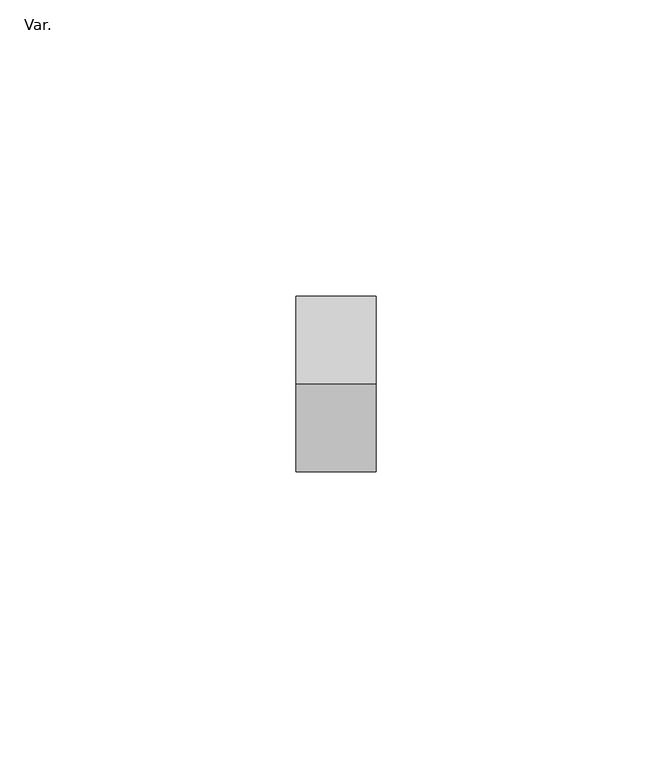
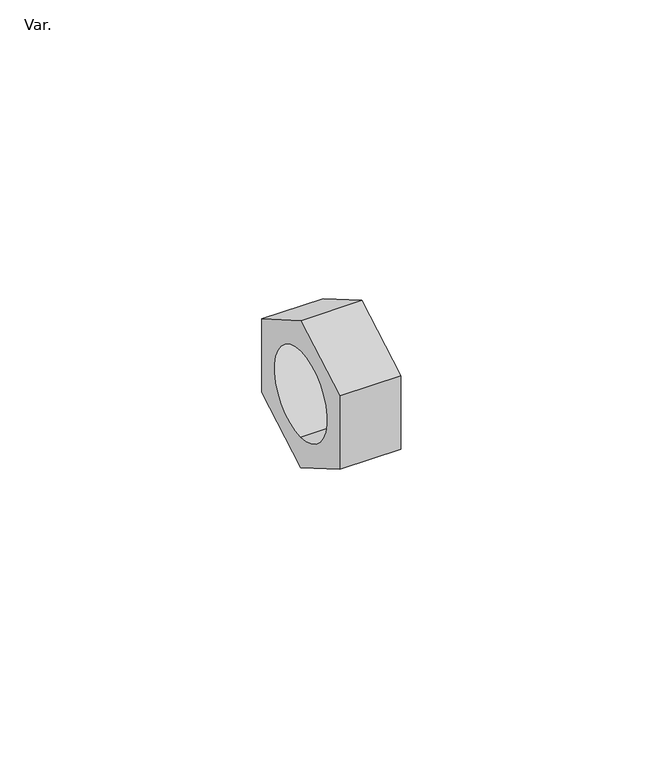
"""IFC4 building model written with IfcOpenShell, lengths in millimetres: pipe fitting geometry, Wavin_Tappevann_Brass_Manifold TF Cap : Var.."""

from ifc_helpers import new_model, si_unit, frame, origin, place, context, project, spatial, polyline, circle_curve, source, transform, mapped, element, save
from ifc_brep_helpers import plane_surface, revolved_surface, advanced_brep


def var_229d13c0(model_context):
    return source(origin(), model_context, "Body", "AdvancedBrep", [
        advanced_brep(
        [(1.5, 14.8090344, -8.55), (1.5, 14.8090344, 8.55), (1.5, 0.0, 17.1), (1.5, -14.8090344, 8.55), (1.5, -14.8090344, -8.55), (1.5, 0.0, -17.1), (-12.0, 14.8090344, -8.55), (-12.0, 0.0, -17.1), (-12.0, -14.8090344, -8.55), (-12.0, -14.8090344, 8.55), (-12.0, 0.0, 17.1), (-12.0, 14.8090344, 8.55), (-12.0, 0.0, 10.0), (-12.0, 0.0, -10.0), (0.0, 0.0, 10.0), (0.0, 0.0, -10.0)],
        [
            (0, 1),
            (1, 2),
            (2, 3),
            (3, 4),
            (4, 5),
            (5, 0),
            (6, 7),
            (7, 8),
            (8, 9),
            (9, 10),
            (10, 11),
            (11, 6),
            (12, 13, circle_curve(frame((-12.0, 0.0, 0.0), z_axis=(1.0, 0.0, 0.0), x_axis=(0.0, 0.0, -1.0)), 10.0)),
            (13, 12, circle_curve(frame((-12.0, 0.0, 0.0), z_axis=(1.0, 0.0, 0.0), x_axis=(0.0, 0.0, -1.0)), 10.0)),
            (0, 6),
            (11, 1),
            (10, 2),
            (9, 3),
            (8, 4),
            (7, 5),
            (14, 15, circle_curve(frame((0.0, 0.0, 0.0), z_axis=(-1.0, 0.0, 0.0), x_axis=(0.0, 0.0, -1.0)), 10.0)),
            (15, 14, circle_curve(frame((0.0, 0.0, 0.0), z_axis=(-1.0, 0.0, 0.0), x_axis=(0.0, 0.0, -1.0)), 10.0)),
            (15, 13),
            (12, 14),
        ],
        [
            plane_surface(frame((1.5, 14.8090344, 8.55), z_axis=(1.0, 0.0, 0.0), x_axis=(0.0, 0.0, 1.0))),
            plane_surface(frame((-12.0, 14.8090344, 8.55), z_axis=(-1.0, 0.0, 0.0), x_axis=(0.0, 0.0, -1.0))),
            plane_surface(frame((1.5, 14.8090344, -8.55), z_axis=(0.0, 1.0, 0.0), x_axis=(-1.0, 0.0, 0.0))),
            plane_surface(frame((1.5, 14.8090344, 8.55), z_axis=(0.0, 0.5000000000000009, 0.8660254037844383), x_axis=(-1.0, 0.0, 0.0))),
            plane_surface(frame((1.5, 0.0, 17.1), z_axis=(0.0, -0.5000000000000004, 0.8660254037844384), x_axis=(-1.0, 0.0, 0.0))),
            plane_surface(frame((1.5, -14.8090344, 8.55), z_axis=(0.0, -1.0, 0.0), x_axis=(-1.0, 0.0, 0.0))),
            plane_surface(frame((1.5, -14.8090344, -8.55), z_axis=(0.0, -0.4999999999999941, -0.866025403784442), x_axis=(-1.0, 0.0, 0.0))),
            plane_surface(frame((1.5, 0.0, -17.1), z_axis=(0.0, 0.4999999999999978, -0.8660254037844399), x_axis=(-1.0, 0.0, 0.0))),
            plane_surface(frame((0.0, 0.0, -10.0), z_axis=(-1.0, 0.0, 0.0), x_axis=(0.0, 1.0, 0.0))),
            revolved_surface(polyline([(0.0, 0.0, -10.0), (-12.0, 0.0, -10.0)]), (-12.0, 0.0, 0.0), (1.0, 0.0, 0.0)),
        ],
        [
            (0, [[1, 2, 3, 4, 5, 6]]),
            (1, [[7, 8, 9, 10, 11, 12], [13, 14]]),
            (2, [[-1, 15, -12, 16]]),
            (3, [[-2, -16, -11, 17]]),
            (4, [[-3, -17, -10, 18]]),
            (5, [[-4, -18, -9, 19]]),
            (6, [[-5, -19, -8, 20]]),
            (7, [[-6, -20, -7, -15]]),
            (8, [[21, 22]]),
            (9, [[-22, 23, -13, 24]]),
            (9, [[-21, -24, -14, -23]]),
        ],
    ),
    ])


if __name__ == "__main__":
    model = new_model("IFC4")
    model_context = context("Model", 3, world=origin())
    ifc_project = project(units=[si_unit("LENGTHUNIT", "METRE", prefix="MILLI")], contexts=[model_context])
    site = spatial("IfcSite", under=ifc_project)
    building = spatial("IfcBuilding", under=site)
    placement = place(None, origin())
    var_shape = var_229d13c0(model_context)
    element("IfcPipeFitting", 1, ObjectType="Wavin_Tappevann_Brass_Manifold TF Cap : Var.", at=placement, inside=building, context=model_context, shape_type="MappedRepresentation", body=[
        mapped(var_shape, transform((0.0, 0.0, 0.0), x_axis=(1.0, 0.0, 0.0), y_axis=(0.0, 1.0, 0.0), z_axis=(0.0, 0.0, 1.0))),
    ])
    save(model, "model.ifc")
